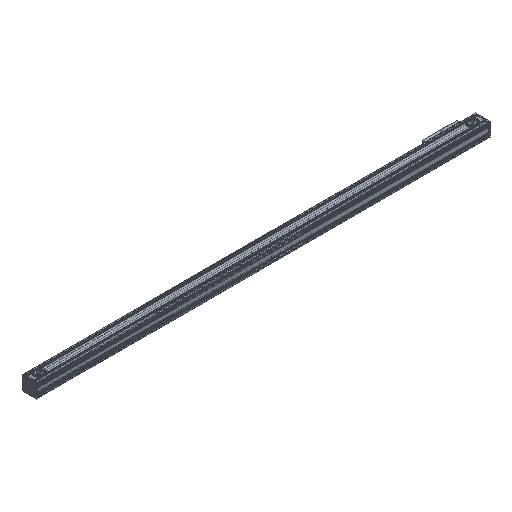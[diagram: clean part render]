
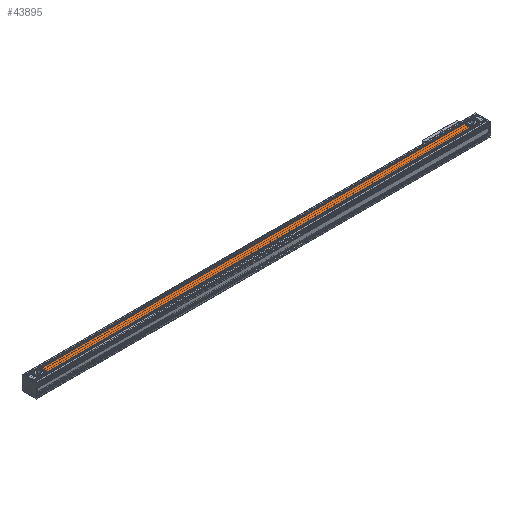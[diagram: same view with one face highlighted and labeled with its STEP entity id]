
A CAD part, isometric view. The second image highlights one B-rep face of the part: STEP entity #43895.
In plain terms, the highlighted planar face has unit normal (0, 0, 1).
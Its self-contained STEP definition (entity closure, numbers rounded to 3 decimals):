
#11992 = DIRECTION ( 'NONE',  ( 0., 0., 1. ) ) ;
#12434 = ORIENTED_EDGE ( 'NONE', *, *, #25923, .F. ) ;
#12713 = CARTESIAN_POINT ( 'NONE',  ( -91.244, 62.821, 83.366 ) ) ;
#14413 = LINE ( 'NONE', #113933, #111500 ) ;
#16871 = EDGE_CURVE ( 'NONE', #95107, #96830, #103118, .T. ) ;
#17410 = EDGE_LOOP ( 'NONE', ( #74126, #12434, #105096, #36378 ) ) ;
#20678 = DIRECTION ( 'NONE',  ( 1., 0., 0. ) ) ;
#24491 = DIRECTION ( 'NONE',  ( 1., 0., 0. ) ) ;
#25923 = EDGE_CURVE ( 'NONE', #95107, #67222, #100633, .T. ) ;
#26932 = EDGE_CURVE ( 'NONE', #65450, #67222, #14413, .T. ) ;
#30367 = DIRECTION ( 'NONE',  ( 0., 0., -1. ) ) ;
#33333 = AXIS2_PLACEMENT_3D ( 'NONE', #61548, #62851, #20678 ) ;
#36378 = ORIENTED_EDGE ( 'NONE', *, *, #93167, .T. ) ;
#43895 = ADVANCED_FACE ( 'NONE', ( #101653 ), #112160, .T. ) ;
#45445 = DIRECTION ( 'NONE',  ( 1., 0., 0. ) ) ;
#54216 = CARTESIAN_POINT ( 'NONE',  ( 2331.899, 62.821, 83.366 ) ) ;
#59365 = AXIS2_PLACEMENT_3D ( 'NONE', #59524, #11992, #24491 ) ;
#59524 = CARTESIAN_POINT ( 'NONE',  ( -164.672, 119.121, 83.366 ) ) ;
#61548 = CARTESIAN_POINT ( 'NONE',  ( 2355.328, 83.121, 83.366 ) ) ;
#62305 = CARTESIAN_POINT ( 'NONE',  ( -164.672, 103.421, 83.366 ) ) ;
#62851 = DIRECTION ( 'NONE',  ( 0., 0., 1. ) ) ;
#65450 = VERTEX_POINT ( 'NONE', #12713 ) ;
#67222 = VERTEX_POINT ( 'NONE', #54216 ) ;
#69943 = CARTESIAN_POINT ( 'NONE',  ( -114.672, 83.121, 83.366 ) ) ;
#74126 = ORIENTED_EDGE ( 'NONE', *, *, #26932, .T. ) ;
#87821 = AXIS2_PLACEMENT_3D ( 'NONE', #69943, #30367, #110008 ) ;
#90529 = CARTESIAN_POINT ( 'NONE',  ( 2331.899, 103.421, 83.366 ) ) ;
#92021 = VECTOR ( 'NONE', #123549, 1000. ) ;
#93167 = EDGE_CURVE ( 'NONE', #96830, #65450, #94137, .T. ) ;
#94137 = CIRCLE ( 'NONE', #87821, 31. ) ;
#95107 = VERTEX_POINT ( 'NONE', #90529 ) ;
#96830 = VERTEX_POINT ( 'NONE', #98054 ) ;
#98054 = CARTESIAN_POINT ( 'NONE',  ( -91.244, 103.421, 83.366 ) ) ;
#100633 = CIRCLE ( 'NONE', #33333, 31. ) ;
#101653 = FACE_OUTER_BOUND ( 'NONE', #17410, .T. ) ;
#103118 = LINE ( 'NONE', #62305, #92021 ) ;
#105096 = ORIENTED_EDGE ( 'NONE', *, *, #16871, .T. ) ;
#110008 = DIRECTION ( 'NONE',  ( -1., 0., 0. ) ) ;
#111500 = VECTOR ( 'NONE', #45445, 1000. ) ;
#112160 = PLANE ( 'NONE',  #59365 ) ;
#113933 = CARTESIAN_POINT ( 'NONE',  ( -164.672, 62.821, 83.366 ) ) ;
#123549 = DIRECTION ( 'NONE',  ( -1., 0., 0. ) ) ;
